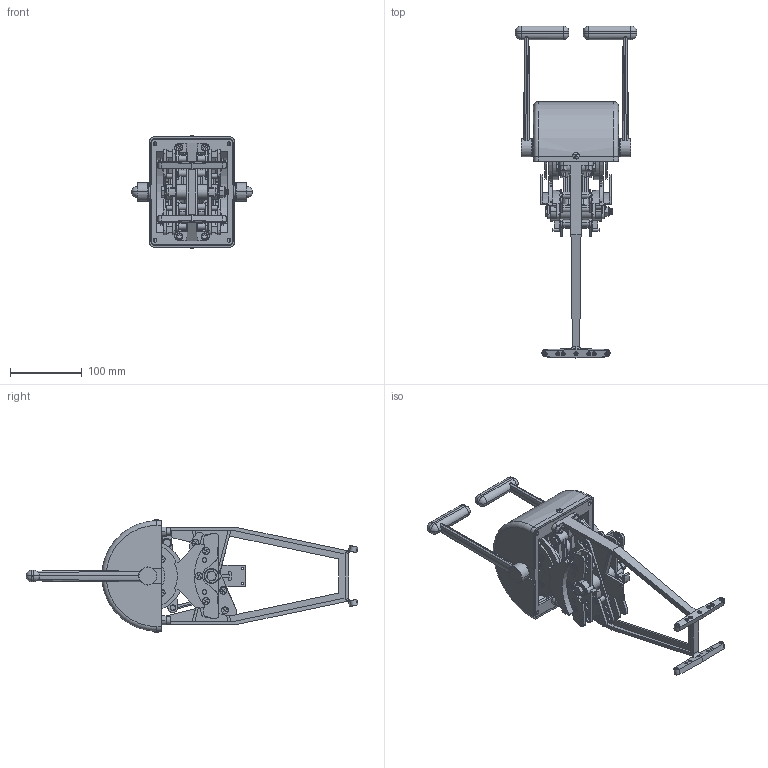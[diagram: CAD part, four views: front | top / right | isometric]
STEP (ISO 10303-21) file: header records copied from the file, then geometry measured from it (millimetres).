
FILE_DESCRIPTION (( 'STEP AP214' ), '1' );
FILE_NAME ('2047-KY.STEP', '2019-11-25T19:54:03', ( '' ), ( '' ), 'SwSTEP 2.0', 'SolidWorks 2019', '' );
FILE_SCHEMA (( 'AUTOMOTIVE_DESIGN' ));
Length unit declared in the file: inch
Products named in the file (1): 2047-KY
Bounding box: 169.29 x 463.06 x 157.75 mm (x, y, z)
Surface area: 346850.4 mm2 (no closed solid volume)
Topology: 0 solids, 87 shells, 1340 faces, 4820 edges, 3471 vertices
Faces by surface type: plane 579, cylinder 541, cone 147, torus 38, bspline 35
Entity records: 105426 total; most frequent: CARTESIAN_POINT 46944, DIRECTION 8838, ORIENTED_EDGE 7622, EDGE_CURVE 4814, VERTEX_POINT 3471, AXIS2_PLACEMENT_3D 3136, LINE 2566, VECTOR 2566
